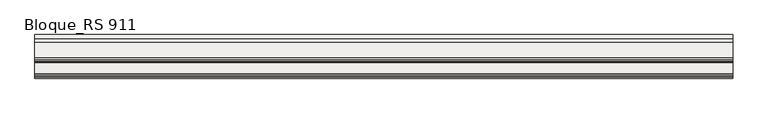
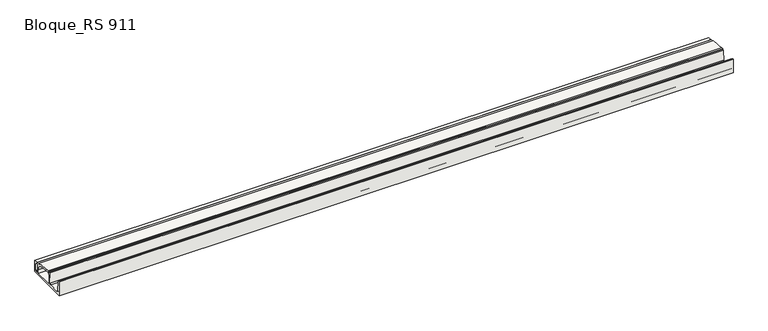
"""IFC4 building model written with IfcOpenShell, lengths in millimetres: slab geometry, ROSA GRES_RS 911 : Bloque_RS 911."""

from ifc_helpers import new_model, si_unit, point, frame, frame_2d, origin, place, context, project, spatial, polyline, circle_curve, trimmed, segment, composite_curve, outline, extrude, source, transform, mapped, element, save


def bloque_rs_911_620b0c99(model_context):
    return source(origin(), model_context, "Body", "SweptSolid", [
        extrude(outline(composite_curve([segment(polyline([(-12.836227, 1.7539108), (-626.836227, 1.7539108), (-626.836227, 216.3460936), (-616.836227, 216.3460936), (-616.836227, 206.3460936), (-598.836227, 206.3460936), (-587.1239808, 55.2086635)]), True, "CONTINUOUS"), segment(trimmed(circle_curve(frame_2d((-567.1837649, 56.7539108)), 20.0), [point((-587.1239808, 55.2086635))], [point((-567.1837649, 36.7539108))], True, "CARTESIAN"), True, "CONTINUOUS"), segment(polyline([(-567.1837649, 36.7539108), (-413.4886891, 36.7539108)]), True, "CONTINUOUS"), segment(trimmed(circle_curve(frame_2d((-413.4886891, 56.7539108)), 20.0), [point((-413.4886891, 36.7539108))], [point((-393.5484732, 55.2086635))], True, "CARTESIAN"), True, "CONTINUOUS"), segment(polyline([(-393.5484732, 55.2086635), (-381.836227, 206.3460936), (-363.836227, 206.3460936), (-363.836227, 216.3460936), (-343.836227, 216.3460936), (-343.836227, 214.7181867), (-123.836227, 196.8112099), (-125.1172881, 181.0724591), (-72.836227, 176.8170239), (-72.836227, 173.8170239), (-67.836227, 173.8170239), (-67.836227, 176.4100471), (-12.836227, 171.9333029), (-12.836227, 1.7539108)]), True, "CONTINUOUS")], self_intersect=False), holes=[composite_curve([segment(polyline([(-67.836227, 140.6431347), (-67.836227, 36.7539108)]), True, "CONTINUOUS"), segment(trimmed(circle_curve(frame_2d((-59.836227, 36.7539108)), 8.0), [point((-67.836227, 36.7539108))], [point((-59.836227, 28.7539108))], True, "CARTESIAN"), True, "CONTINUOUS"), segment(polyline([(-59.836227, 28.7539108), (-47.836227, 28.7539108)]), True, "CONTINUOUS"), segment(trimmed(circle_curve(frame_2d((-47.836227, 36.7539108)), 8.0), [point((-47.836227, 28.7539108))], [point((-39.836227, 36.7539108))], True, "CARTESIAN"), True, "CONTINUOUS"), segment(polyline([(-39.836227, 36.7539108), (-39.836227, 139.6663905)]), True, "CONTINUOUS"), segment(trimmed(circle_curve(frame_2d((-47.836227, 139.6663905)), 8.0), [point((-39.836227, 139.6663905))], [point((-47.1872106, 147.6400206))], True, "CARTESIAN"), True, "CONTINUOUS"), segment(polyline([(-47.1872106, 147.6400206), (-59.1872106, 148.6167648)]), True, "CONTINUOUS"), segment(trimmed(circle_curve(frame_2d((-59.836227, 140.6431347)), 8.0), [point((-59.1872106, 148.6167648))], [point((-67.836227, 140.6431347))], True, "CARTESIAN"), True, "CONTINUOUS")], self_intersect=False), composite_curve([segment(polyline([(-180.4105134, 169.2541533), (-334.6837717, 181.811279)]), True, "CONTINUOUS"), segment(trimmed(circle_curve(frame_2d((-336.3063127, 161.8772036)), 20.0), [point((-334.6837717, 181.811279))], [point((-356.3063127, 161.8772036))], True, "CARTESIAN"), True, "CONTINUOUS"), segment(polyline([(-356.3063127, 161.8772036), (-356.3063127, 28.7539108), (-102.3063127, 28.7539108), (-102.3063127, 84.534333)]), True, "CONTINUOUS"), segment(trimmed(circle_curve(frame_2d((-187.3063127, 84.534333)), 85.0), [point((-102.3063127, 84.534333))], [point((-180.4105134, 169.2541533))], True, "CARTESIAN"), True, "CONTINUOUS")], self_intersect=False)]), frame((0.0, 0.0, 0.0), z_axis=(1.0, 0.0, 0.0), x_axis=(0.0, 1.0, 0.0)), (0.0, 0.0, 1.0), 9821.5518822),
    ])


if __name__ == "__main__":
    model = new_model("IFC4")
    model_context = context("Model", 3, world=origin())
    ifc_project = project(units=[si_unit("LENGTHUNIT", "METRE", prefix="MILLI")], contexts=[model_context])
    site = spatial("IfcSite", under=ifc_project)
    building = spatial("IfcBuilding", under=site)
    placement = place(None, origin())
    bloque_rs_911_shape = bloque_rs_911_620b0c99(model_context)
    element("IfcSlab", 1, ObjectType="ROSA GRES_RS 911 : Bloque_RS 911", at=placement, inside=building, context=model_context, shape_type="MappedRepresentation", body=[
        mapped(bloque_rs_911_shape, transform((0.0, 0.0, 0.0), x_axis=(1.0, 0.0, 0.0), y_axis=(0.0, 1.0, 0.0), z_axis=(0.0, 0.0, 1.0))),
    ])
    save(model, "model.ifc")
